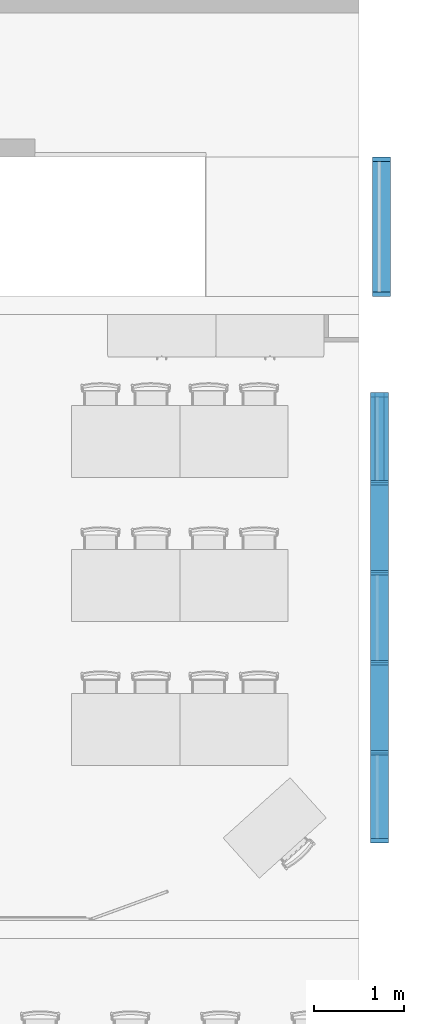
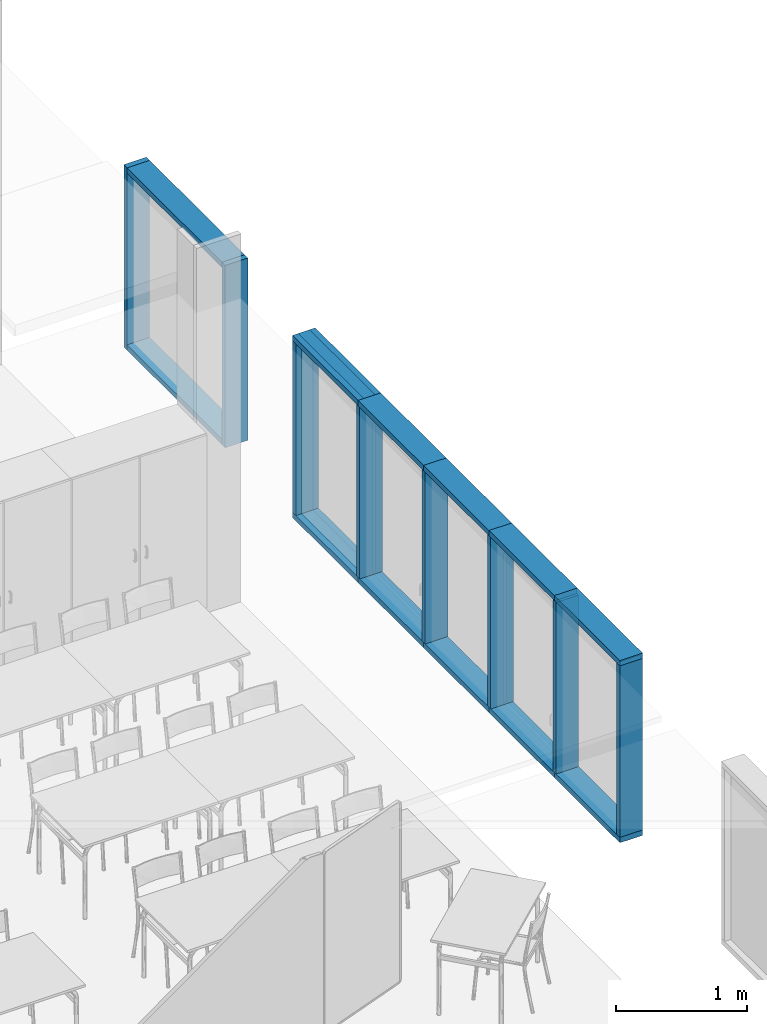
# One storey, part 10 of 44: 51 members, 4 elements without a shape of their own.
"""IFC2X3 building model written with IfcOpenShell, lengths in centimetres."""

import ifcopenshell
import ifcopenshell.guid

model = None  # the IFC model being written
_history = None  # IfcOwnerHistory: only IFC2X3 demands one
_inside = {}  # id of a spatial element -> (the spatial element, [elements in it])
_under = {}  # id of a project, library or spatial element -> (it, [spatial elements below it])
_declared = {}  # id of a project -> (the project, [libraries it declares])
_typed = {}  # id of a type object -> (the type object, [elements of that type])
_made_of = {}  # id of a material, layer set ... -> (it, [elements and type objects made of it])


def new_model(schema):
    """Start an empty IFC model of exactly this schema.

    Asked for "IFC4X3", IfcOpenShell would pick the latest addendum, in which some entities
    have other attributes; the version numbers below select the first issue.
    IFC2X3 requires an IfcOwnerHistory on every rooted entity: one is made here for all.
    """
    global model, _history
    if schema == "IFC4X3":
        model = ifcopenshell.file(schema_version=(4, 3, 0, 0))
    else:
        model = ifcopenshell.file(schema=schema)
    _inside.clear()
    _under.clear()
    _declared.clear()
    _typed.clear()
    _made_of.clear()
    _history = None
    if model.schema == "IFC2X3":
        org = make("IfcOrganization", Name="unknown")
        user = make(
            "IfcPersonAndOrganization",
            ThePerson=make("IfcPerson", FamilyName="unknown"),
            TheOrganization=org,
        )
        app = make(
            "IfcApplication",
            ApplicationDeveloper=org,
            Version="unknown",
            ApplicationFullName="unknown",
            ApplicationIdentifier="unknown",
        )
        _history = make(
            "IfcOwnerHistory",
            OwningUser=user,
            OwningApplication=app,
            ChangeAction="ADDED",
            CreationDate=0,
        )
    return model


def make(cls, **values):
    """One entity of the class cls with the attributes given. An attribute that is None is left unset."""
    return model.create_entity(
        cls, **{name: value for name, value in values.items() if value is not None}
    )


def entity(cls, *values):
    """Any entity or typed value of the class cls, its attributes in the order of the schema. None: left unset."""
    e = model.create_entity(cls)
    for i, value in enumerate(values):
        if value is not None:
            e[i] = value
    return e


def rooted(cls, **values):
    """An entity with a GlobalId (a new one), such as an element, a storey or a relation."""
    return make(cls, GlobalId=ifcopenshell.guid.new(), OwnerHistory=_history, **values)


def si_unit(unit_type, name, prefix=None):
    """IfcSIUnit, for example si_unit("LENGTHUNIT", "METRE", prefix="MILLI")."""
    return make("IfcSIUnit", UnitType=unit_type, Prefix=prefix, Name=name)


def converted_unit(unit_type, name, factor, base, dimensions=None, offset=None):
    """IfcConversionBasedUnit, such as the inch: factor (a typed value) times the base unit."""
    return make(
        "IfcConversionBasedUnit"
        if offset is None
        else "IfcConversionBasedUnitWithOffset",
        ConversionOffset=offset,
        Dimensions=None
        if dimensions is None
        else entity("IfcDimensionalExponents", *dimensions),
        UnitType=unit_type,
        Name=name,
        ConversionFactor=make(
            "IfcMeasureWithUnit", ValueComponent=factor, UnitComponent=base
        ),
    )


def derived_unit(unit_type, elements):
    """IfcDerivedUnit: a product of units, each with its exponent."""
    return make(
        "IfcDerivedUnit",
        Elements=[
            make("IfcDerivedUnitElement", Unit=unit, Exponent=power)
            for unit, power in elements
        ],
        UnitType=unit_type,
    )


def assignment(units):
    """IfcUnitAssignment: the units of a project."""
    return None if units is None else make("IfcUnitAssignment", Units=units)


def point(xyz):
    """IfcCartesianPoint."""
    return None if xyz is None else make("IfcCartesianPoint", Coordinates=xyz)


def direction(xyz):
    """IfcDirection."""
    return None if xyz is None else make("IfcDirection", DirectionRatios=xyz)


def frame(location, z_axis=None, x_axis=None):
    """IfcAxis2Placement3D, a coordinate frame: its origin and axes. An axis left out is left unset."""
    return make(
        "IfcAxis2Placement3D",
        Location=point(location),
        Axis=direction(z_axis),
        RefDirection=direction(x_axis),
    )


def frame_2d(location, x_axis=None):
    """IfcAxis2Placement2D, a coordinate frame in the plane: its origin and x axis."""
    return make(
        "IfcAxis2Placement2D", Location=point(location), RefDirection=direction(x_axis)
    )


def origin():
    """The frame at (0, 0, 0) with its axes left unset."""
    return frame((0.0, 0.0, 0.0))


def origin_2d_with_axis():
    """The frame at (0, 0) in the plane with the x axis (1, 0) written out."""
    return frame_2d((0.0, 0.0), x_axis=(1.0, 0.0))


def place(relative_to, where):
    """IfcLocalPlacement: puts the frame where relative to a parent placement (None: the world)."""
    return make(
        "IfcLocalPlacement", PlacementRelTo=relative_to, RelativePlacement=where
    )


def context(
    kind, dimensions, precision=None, world=None, true_north=None, identifier=None
):
    """IfcGeometricRepresentationContext, for example the 3D "Model" context."""
    return make(
        "IfcGeometricRepresentationContext",
        ContextIdentifier=identifier,
        ContextType=kind,
        CoordinateSpaceDimension=dimensions,
        Precision=precision,
        WorldCoordinateSystem=world,
        TrueNorth=true_north,
    )


def subcontext(parent, identifier, kind, view, scale=None):
    """IfcGeometricRepresentationSubContext, for example "Body" below "Model"."""
    return make(
        "IfcGeometricRepresentationSubContext",
        ContextIdentifier=identifier,
        ContextType=kind,
        ParentContext=parent,
        TargetScale=scale,
        TargetView=view,
    )


def project(units=None, contexts=None):
    """IfcProject with its units and contexts."""
    return rooted(
        "IfcProject",
        Name="project",
        RepresentationContexts=contexts,
        UnitsInContext=assignment(units),
    )


def spatial(cls, under=None, at=None, **own):
    """A site, building, storey or space (cls), placed at a placement, below another one or the project."""
    s = rooted(cls, ObjectPlacement=at, **own)
    if under is not None:
        _under.setdefault(under.id(), (under, []))[1].append(s)
    return s


def profile(cls, at=None, kind="AREA", **sizes):
    """A parametric profile (cls). Its sizes go by their IFC names, for example OverallWidth=200.0."""
    return make(cls, ProfileType=kind, Position=at, **sizes)


def rectangle(**sizes):
    """IfcRectangleProfileDef."""
    return profile("IfcRectangleProfileDef", **sizes)


def extrude(swept, where, along, depth):
    """IfcExtrudedAreaSolid: the profile swept, set in the frame where, extruded along a direction by depth."""
    return make(
        "IfcExtrudedAreaSolid",
        SweptArea=swept,
        Position=where,
        ExtrudedDirection=direction(along),
        Depth=depth,
    )


def shape(context_of_items, identifier, shape_type, items):
    """IfcShapeRepresentation: the items that make up one representation, for example the "Body"."""
    return make(
        "IfcShapeRepresentation",
        ContextOfItems=context_of_items,
        RepresentationIdentifier=identifier,
        RepresentationType=shape_type,
        Items=items,
    )


def material(Name=None, Category=None):
    """IfcMaterial."""
    return make("IfcMaterial", Name=Name, Category=Category)


def made_of(thing, what):
    """Note that an element or type object is made of a material, layer set ...; save() writes the relation."""
    if what is not None:
        _made_of.setdefault(what.id(), (what, []))[1].append(thing)
    return thing


def type_object(cls, material=None, **own):
    """A type object (cls), such as IfcWallType, which elements share."""
    return made_of(rooted(cls, **own), material)


def element(
    cls,
    number,
    at=None,
    inside=None,
    cuts=None,
    type_object=None,
    material=None,
    context=None,
    identifier="Body",
    shape_type=None,
    held_by="IfcProductDefinitionShape",
    body=None,
    shapes=None,
    **own,
):
    """One element of the class cls, such as IfcWall. Its Tag is "e" and its number.

    at: its placement. inside: the storey or other place that contains it. cuts: it is an
    opening in that element (IfcRelVoidsElement). A single representation is given by context,
    identifier, shape_type and body (its items); several are given by shapes. held_by: the class
    of the entity that holds the representations. save() writes the other relations.
    """
    e = rooted(cls, Tag="e%d" % number, ObjectPlacement=at, **own)
    if body is not None:
        shapes = [shape(context, identifier, shape_type, body)]
    if shapes is not None:
        e.Representation = make(held_by, Representations=shapes)
    if inside is not None:
        _inside.setdefault(inside.id(), (inside, []))[1].append(e)
    if cuts is not None:
        rooted(
            "IfcRelVoidsElement", RelatingBuildingElement=cuts, RelatedOpeningElement=e
        )
    if type_object is not None:
        _typed.setdefault(type_object.id(), (type_object, []))[1].append(e)
    return made_of(e, material)


def aggregate(whole, parts):
    """IfcRelAggregates: a whole, such as a stair, and the parts it consists of."""
    return rooted("IfcRelAggregates", RelatingObject=whole, RelatedObjects=parts)


def save(model, path):
    """Write the relations noted so far, then the file.

    IfcRelAggregates (storeys below a building ...), IfcRelContainedInSpatialStructure (elements
    in a storey), IfcRelDefinesByType, IfcRelAssociatesMaterial and IfcRelDeclares: one each for
    every whole, place, type object, material and project.
    """
    for whole, parts in _under.values():
        aggregate(whole, parts)
    for where, things in _inside.values():
        rooted(
            "IfcRelContainedInSpatialStructure",
            RelatedElements=things,
            RelatingStructure=where,
        )
    for kind, things in _typed.values():
        rooted("IfcRelDefinesByType", RelatedObjects=things, RelatingType=kind)
    for what, things in _made_of.values():
        rooted("IfcRelAssociatesMaterial", RelatedObjects=things, RelatingMaterial=what)
    for by, libraries in _declared.values():
        rooted("IfcRelDeclares", RelatingContext=by, RelatedDefinitions=libraries)
    model.write(path)


model = new_model("IFC2X3")

# Units and contexts
model_context = context("Model", 3, precision=0.001, world=origin(), true_north=direction((6.12303176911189e-17, 1.0)))
body_context = subcontext(model_context, "Body", "Model", "MODEL_VIEW")
ifc_project = project(units=[si_unit("LENGTHUNIT", "METRE", prefix="CENTI"), si_unit("AREAUNIT", "SQUARE_METRE"), si_unit("VOLUMEUNIT", "CUBIC_METRE"), converted_unit("PLANEANGLEUNIT", "DEGREE", entity("IfcRatioMeasure", 0.0174532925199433), si_unit("PLANEANGLEUNIT", "RADIAN"), dimensions=[0, 0, 0, 0, 0, 0, 0]), si_unit("MASSUNIT", "GRAM", prefix="KILO"), si_unit("TIMEUNIT", "SECOND"), si_unit("FREQUENCYUNIT", "HERTZ"), si_unit("THERMODYNAMICTEMPERATUREUNIT", "DEGREE_CELSIUS"), derived_unit("THERMALTRANSMITTANCEUNIT", [(si_unit("MASSUNIT", "GRAM", prefix="KILO"), 1), (si_unit("THERMODYNAMICTEMPERATUREUNIT", "KELVIN"), -1), (si_unit("TIMEUNIT", "SECOND"), -3)]), derived_unit("VOLUMETRICFLOWRATEUNIT", [(si_unit("LENGTHUNIT", "METRE"), 3), (si_unit("TIMEUNIT", "SECOND"), -1)]), si_unit("ELECTRICCURRENTUNIT", "AMPERE"), si_unit("ELECTRICVOLTAGEUNIT", "VOLT"), si_unit("POWERUNIT", "WATT"), si_unit("FORCEUNIT", "NEWTON", prefix="KILO"), si_unit("ILLUMINANCEUNIT", "LUX"), si_unit("LUMINOUSFLUXUNIT", "LUMEN"), si_unit("LUMINOUSINTENSITYUNIT", "CANDELA"), derived_unit("USERDEFINED", [(si_unit("MASSUNIT", "GRAM", prefix="KILO"), -1), (si_unit("LENGTHUNIT", "METRE"), -2), (si_unit("TIMEUNIT", "SECOND"), 3), (si_unit("LUMINOUSFLUXUNIT", "LUMEN"), 1)]), derived_unit("LINEARVELOCITYUNIT", [(si_unit("LENGTHUNIT", "METRE"), 1), (si_unit("TIMEUNIT", "SECOND"), -1)]), si_unit("PRESSUREUNIT", "PASCAL"), derived_unit("USERDEFINED", [(si_unit("LENGTHUNIT", "METRE"), -2), (si_unit("MASSUNIT", "GRAM", prefix="KILO"), 1), (si_unit("TIMEUNIT", "SECOND"), -2)])], contexts=[model_context])

# Site, building, storey
site_placement = place(None, frame((8.62739174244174, -249.285249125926, 0.0)))
site = spatial("IfcSite", under=ifc_project, at=site_placement, Name="Default", CompositionType="ELEMENT")
building_placement = place(site_placement, origin())
building = spatial("IfcBuilding", under=site, at=building_placement, CompositionType="ELEMENT")
storey_placement = place(building_placement, frame((0.0, 0.0, 343.0)))
storey = spatial("IfcBuildingStorey", under=building, at=storey_placement, Name="R+1", CompositionType="ELEMENT", Elevation=343.0)

# Curtain wall, members
curtain_wall_type = type_object("IfcCurtainWallType", Name="Mur-rideau:Simple panneau", PredefinedType="NOTDEFINED")
curtain_wall_1_placement = place(storey_placement, frame((0.0, 0.0, -343.0)))
curtain_wall_1 = element("IfcCurtainWall", 1, at=curtain_wall_1_placement, inside=storey, type_object=curtain_wall_type, Name="Mur-rideau:Simple panneau", ObjectType="Mur-rideau:Simple panneau")
ifc_material = material(Name="Plastique, blanc opaque")
member_1_placement = place(curtain_wall_1_placement, frame((0.0, 0.0, 343.0)))
member_1 = element("IfcMember", 2, at=member_1_placement, material=ifc_material, Name="Mur-rideau:Simple panneau", ObjectType="Mur-rideau:Simple panneau", context=body_context, shape_type="SweptSolid", body=[
    extrude(rectangle(XDim=9.99999999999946, YDim=4.99999999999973, at=frame_2d((0.0, -4.33209024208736e-13), x_axis=(1.0, 0.0))), frame((4001.90482776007, 4594.08270074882, 273.0), z_axis=(0.0, 0.0, -1.0), x_axis=(-1.0, 0.0, 0.0)), (0.0, 0.0, 1.0), 160.0),
])
member_2_placement = place(curtain_wall_1_placement, frame((0.0, 0.0, 343.0)))
member_2 = element("IfcMember", 3, at=member_2_placement, material=ifc_material, Name="Mur-rideau:Simple panneau", ObjectType="Mur-rideau:Simple panneau", context=body_context, shape_type="SweptSolid", body=[
    extrude(rectangle(XDim=20.0000000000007, YDim=4.99999999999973, at=frame_2d((0.0, 4.33209024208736e-13), x_axis=(1.0, 0.0))), frame((4001.90482776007, 4099.08270074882, 113.0), z_axis=(0.0, 0.0, 1.0), x_axis=(-1.0, 0.0, 0.0)), (0.0, 0.0, 1.0), 160.0),
])
member_3_placement = place(curtain_wall_1_placement, frame((0.0, 0.0, 343.0)))
member_3 = element("IfcMember", 4, at=member_3_placement, material=ifc_material, Name="Mur-rideau:Simple panneau", ObjectType="Mur-rideau:Simple panneau", context=body_context, shape_type="SweptSolid", body=[
    extrude(rectangle(XDim=5.0, YDim=9.99999999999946, at=frame_2d((-2.70894418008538e-14, 0.0), x_axis=(1.0, 0.0))), frame((4001.90482776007, 4596.58270074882, 110.499999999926), z_axis=(0.0, -1.0, 0.0), x_axis=(0.0, 0.0, -1.0)), (0.0, 0.0, 1.0), 99.9999999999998),
])
member_4_placement = place(curtain_wall_1_placement, frame((0.0, 0.0, 343.0)))
member_4 = element("IfcMember", 5, at=member_4_placement, material=ifc_material, Name="Mur-rideau:Simple panneau", ObjectType="Mur-rideau:Simple panneau", context=body_context, shape_type="SweptSolid", body=[
    extrude(rectangle(XDim=20.0000000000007, YDim=5.0000000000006, at=origin_2d_with_axis()), frame((4001.90482776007, 4196.58270074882, 113.0), z_axis=(0.0, 0.0, 1.0), x_axis=(-1.0, 0.0, 0.0)), (0.0, 0.0, 1.0), 160.0),
])
member_5_placement = place(curtain_wall_1_placement, frame((0.0, 0.0, 343.0)))
member_5 = element("IfcMember", 6, at=member_5_placement, material=ifc_material, Name="Mur-rideau:Simple panneau", ObjectType="Mur-rideau:Simple panneau", context=body_context, shape_type="SweptSolid", body=[
    extrude(rectangle(XDim=20.0000000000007, YDim=5.0000000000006, at=origin_2d_with_axis()), frame((4001.90482776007, 4296.58270074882, 113.0), z_axis=(0.0, 0.0, 1.0), x_axis=(-1.0, 0.0, 0.0)), (0.0, 0.0, 1.0), 160.0),
])
member_6_placement = place(curtain_wall_1_placement, frame((0.0, 0.0, 343.0)))
member_6 = element("IfcMember", 7, at=member_6_placement, material=ifc_material, Name="Mur-rideau:Simple panneau", ObjectType="Mur-rideau:Simple panneau", context=body_context, shape_type="SweptSolid", body=[
    extrude(rectangle(XDim=20.0000000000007, YDim=5.0000000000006, at=origin_2d_with_axis()), frame((4001.90482776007, 4396.58270074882, 113.0), z_axis=(0.0, 0.0, 1.0), x_axis=(-1.0, 0.0, 0.0)), (0.0, 0.0, 1.0), 160.0),
])
member_7_placement = place(curtain_wall_1_placement, frame((0.0, 0.0, 343.0)))
member_7 = element("IfcMember", 8, at=member_7_placement, material=ifc_material, Name="Mur-rideau:Simple panneau", ObjectType="Mur-rideau:Simple panneau", context=body_context, shape_type="SweptSolid", body=[
    extrude(rectangle(XDim=20.0000000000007, YDim=5.0000000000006, at=origin_2d_with_axis()), frame((4001.90482776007, 4496.58270074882, 113.0), z_axis=(0.0, 0.0, 1.0), x_axis=(-1.0, 0.0, 0.0)), (0.0, 0.0, 1.0), 160.0),
])
member_8_placement = place(curtain_wall_1_placement, frame((0.0, 0.0, 343.0)))
member_8 = element("IfcMember", 9, at=member_8_placement, material=ifc_material, Name="Mur-rideau:Simple panneau", ObjectType="Mur-rideau:Simple panneau", context=body_context, shape_type="SweptSolid", body=[
    extrude(rectangle(XDim=5.0, YDim=20.0000000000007, at=frame_2d((-2.70894418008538e-14, 0.0), x_axis=(1.0, 0.0))), frame((4001.90482776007, 4196.58270074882, 110.499999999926), z_axis=(0.0, -1.0, 0.0), x_axis=(0.0, 0.0, -1.0)), (0.0, 0.0, 1.0), 100.000000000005),
])
member_9_placement = place(curtain_wall_1_placement, frame((0.0, 0.0, 343.0)))
member_9 = element("IfcMember", 10, at=member_9_placement, material=ifc_material, Name="Mur-rideau:Simple panneau", ObjectType="Mur-rideau:Simple panneau", context=body_context, shape_type="SweptSolid", body=[
    extrude(rectangle(XDim=5.0, YDim=20.0000000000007, at=frame_2d((-2.70894418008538e-14, 0.0), x_axis=(1.0, 0.0))), frame((4001.90482776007, 4296.58270074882, 110.499999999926), z_axis=(0.0, -1.0, 0.0), x_axis=(0.0, 0.0, -1.0)), (0.0, 0.0, 1.0), 99.9999999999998),
])
member_10_placement = place(curtain_wall_1_placement, frame((0.0, 0.0, 343.0)))
member_10 = element("IfcMember", 11, at=member_10_placement, material=ifc_material, Name="Mur-rideau:Simple panneau", ObjectType="Mur-rideau:Simple panneau", context=body_context, shape_type="SweptSolid", body=[
    extrude(rectangle(XDim=5.0, YDim=20.0000000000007, at=frame_2d((-2.70894418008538e-14, 0.0), x_axis=(1.0, 0.0))), frame((4001.90482776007, 4396.58270074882, 110.499999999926), z_axis=(0.0, -1.0, 0.0), x_axis=(0.0, 0.0, -1.0)), (0.0, 0.0, 1.0), 100.0),
])
member_11_placement = place(curtain_wall_1_placement, frame((0.0, 0.0, 343.0)))
member_11 = element("IfcMember", 12, at=member_11_placement, material=ifc_material, Name="Mur-rideau:Simple panneau", ObjectType="Mur-rideau:Simple panneau", context=body_context, shape_type="SweptSolid", body=[
    extrude(rectangle(XDim=5.0, YDim=20.0000000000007, at=frame_2d((-2.70894418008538e-14, 0.0), x_axis=(1.0, 0.0))), frame((4001.90482776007, 4496.58270074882, 110.499999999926), z_axis=(0.0, -1.0, 0.0), x_axis=(0.0, 0.0, -1.0)), (0.0, 0.0, 1.0), 99.9999999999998),
])
member_12_placement = place(curtain_wall_1_placement, frame((0.0, 0.0, 343.0)))
member_12 = element("IfcMember", 13, at=member_12_placement, material=ifc_material, Name="Mur-rideau:Simple panneau", ObjectType="Mur-rideau:Simple panneau", context=body_context, shape_type="SweptSolid", body=[
    extrude(rectangle(XDim=4.99999999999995, YDim=20.0000000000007, at=origin_2d_with_axis()), frame((4001.90482776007, 4196.58270074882, 275.499999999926), z_axis=(0.0, 1.0, 0.0), x_axis=(0.0, 0.0, -1.0)), (0.0, 0.0, 1.0), 99.9999999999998),
])
member_13_placement = place(curtain_wall_1_placement, frame((0.0, 0.0, 343.0)))
member_13 = element("IfcMember", 14, at=member_13_placement, material=ifc_material, Name="Mur-rideau:Simple panneau", ObjectType="Mur-rideau:Simple panneau", context=body_context, shape_type="SweptSolid", body=[
    extrude(rectangle(XDim=4.99999999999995, YDim=20.0000000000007, at=origin_2d_with_axis()), frame((4001.90482776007, 4296.58270074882, 275.499999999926), z_axis=(0.0, 1.0, 0.0), x_axis=(0.0, 0.0, -1.0)), (0.0, 0.0, 1.0), 100.0),
])
member_14_placement = place(curtain_wall_1_placement, frame((0.0, 0.0, 343.0)))
member_14 = element("IfcMember", 15, at=member_14_placement, material=ifc_material, Name="Mur-rideau:Simple panneau", ObjectType="Mur-rideau:Simple panneau", context=body_context, shape_type="SweptSolid", body=[
    extrude(rectangle(XDim=4.99999999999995, YDim=20.0000000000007, at=origin_2d_with_axis()), frame((4001.90482776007, 4396.58270074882, 275.499999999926), z_axis=(0.0, 1.0, 0.0), x_axis=(0.0, 0.0, -1.0)), (0.0, 0.0, 1.0), 99.9999999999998),
])
member_15_placement = place(curtain_wall_1_placement, frame((0.0, 0.0, 343.0)))
member_15 = element("IfcMember", 16, at=member_15_placement, material=ifc_material, Name="Mur-rideau:Simple panneau", ObjectType="Mur-rideau:Simple panneau", context=body_context, shape_type="SweptSolid", body=[
    extrude(rectangle(XDim=4.99999999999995, YDim=9.99999999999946, at=origin_2d_with_axis()), frame((4001.90482776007, 4496.58270074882, 275.499999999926), z_axis=(0.0, 1.0, 0.0), x_axis=(0.0, 0.0, -1.0)), (0.0, 0.0, 1.0), 99.9999999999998),
])
aggregate(curtain_wall_1, [member_1, member_2, member_3, member_4, member_5, member_6, member_7, member_8, member_9, member_10, member_11, member_12, member_13, member_14, member_15])

curtain_wall_2_placement = place(storey_placement, frame((0.0, 0.0, -343.0)))
curtain_wall_2 = element("IfcCurtainWall", 17, at=curtain_wall_2_placement, inside=storey, type_object=curtain_wall_type, Name="Mur-rideau:Simple panneau", ObjectType="Mur-rideau:Simple panneau")
member_16_placement = place(curtain_wall_2_placement, frame((0.0, 0.0, 343.0)))
member_16 = element("IfcMember", 18, at=member_16_placement, material=ifc_material, Name="Mur-rideau:Simple panneau", ObjectType="Mur-rideau:Simple panneau", context=body_context, shape_type="SweptSolid", body=[
    extrude(rectangle(XDim=20.0000000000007, YDim=4.99999999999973, at=frame_2d((0.0, -4.33209024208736e-13), x_axis=(1.0, 0.0))), frame((4003.90482781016, 4855.48020813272, 278.0), z_axis=(0.0, 0.0, -1.0), x_axis=(-1.0, 0.0, 0.0)), (0.0, 0.0, 1.0), 170.0),
])
member_17_placement = place(curtain_wall_2_placement, frame((0.0, 0.0, 343.0)))
member_17 = element("IfcMember", 19, at=member_17_placement, material=ifc_material, Name="Mur-rideau:Simple panneau", ObjectType="Mur-rideau:Simple panneau", context=body_context, shape_type="SweptSolid", body=[
    extrude(rectangle(XDim=5.00000000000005, YDim=20.0000000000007, at=frame_2d((-5.41788836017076e-14, 0.0), x_axis=(1.0, 0.0))), frame((4003.90482781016, 4707.98020813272, 275.49999999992), z_axis=(0.0, 1.0, 0.0), x_axis=(0.0, 0.0, -1.0)), (0.0, 0.0, 1.0), 145.000000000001),
])
member_18_placement = place(curtain_wall_2_placement, frame((0.0, 0.0, 343.0)))
member_18 = element("IfcMember", 20, at=member_18_placement, material=ifc_material, Name="Mur-rideau:Simple panneau", ObjectType="Mur-rideau:Simple panneau", context=body_context, shape_type="SweptSolid", body=[
    extrude(rectangle(XDim=20.0000000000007, YDim=4.99999999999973, at=frame_2d((0.0, -4.33209024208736e-13), x_axis=(1.0, 0.0))), frame((4003.90482781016, 4705.48020813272, 108.0), z_axis=(0.0, 0.0, 1.0), x_axis=(-1.0, 0.0, 0.0)), (0.0, 0.0, 1.0), 170.0),
])
member_19_placement = place(curtain_wall_2_placement, frame((0.0, 0.0, 343.0)))
member_19 = element("IfcMember", 21, at=member_19_placement, material=ifc_material, Name="Mur-rideau:Simple panneau", ObjectType="Mur-rideau:Simple panneau", context=body_context, shape_type="SweptSolid", body=[
    extrude(rectangle(XDim=5.0, YDim=20.0000000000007, at=frame_2d((2.70894418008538e-14, 0.0), x_axis=(1.0, 0.0))), frame((4003.90482781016, 4852.98020813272, 110.5), z_axis=(0.0, -1.0, 0.0), x_axis=(0.0, 0.0, -1.0)), (0.0, 0.0, 1.0), 145.000000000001),
])
aggregate(curtain_wall_2, [member_16, member_17, member_18, member_19])

curtain_wall_3_placement = place(storey_placement, frame((0.0, 0.0, -343.0)))
curtain_wall_3 = element("IfcCurtainWall", 22, at=curtain_wall_3_placement, inside=storey, type_object=curtain_wall_type, Name="Mur-rideau:Simple panneau", ObjectType="Mur-rideau:Simple panneau")
member_20_placement = place(curtain_wall_3_placement, frame((0.0, 0.0, 343.0)))
member_20 = element("IfcMember", 23, at=member_20_placement, material=ifc_material, Name="Mur-rideau:Simple panneau", ObjectType="Mur-rideau:Simple panneau", context=body_context, shape_type="SweptSolid", body=[
    extrude(rectangle(XDim=20.0000000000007, YDim=4.99999999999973, at=frame_2d((0.0, -4.33209024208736e-13), x_axis=(1.0, 0.0))), frame((4001.90482776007, 4594.08270074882, 273.0), z_axis=(0.0, 0.0, -1.0), x_axis=(-1.0, 0.0, 0.0)), (0.0, 0.0, 1.0), 160.0),
])
member_21_placement = place(curtain_wall_3_placement, frame((0.0, 0.0, 343.0)))
member_21 = element("IfcMember", 24, at=member_21_placement, material=ifc_material, Name="Mur-rideau:Simple panneau", ObjectType="Mur-rideau:Simple panneau", context=body_context, shape_type="SweptSolid", body=[
    extrude(rectangle(XDim=4.99999999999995, YDim=20.0000000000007, at=origin_2d_with_axis()), frame((4001.90482776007, 4096.58270074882, 275.499999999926), z_axis=(0.0, 1.0, 0.0), x_axis=(0.0, 0.0, -1.0)), (0.0, 0.0, 1.0), 100.000000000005),
])
member_22_placement = place(curtain_wall_3_placement, frame((0.0, 0.0, 343.0)))
member_22 = element("IfcMember", 25, at=member_22_placement, material=ifc_material, Name="Mur-rideau:Simple panneau", ObjectType="Mur-rideau:Simple panneau", context=body_context, shape_type="SweptSolid", body=[
    extrude(rectangle(XDim=20.0000000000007, YDim=4.99999999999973, at=frame_2d((0.0, 4.33209024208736e-13), x_axis=(1.0, 0.0))), frame((4001.90482776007, 4099.08270074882, 113.0), z_axis=(0.0, 0.0, 1.0), x_axis=(-1.0, 0.0, 0.0)), (0.0, 0.0, 1.0), 160.0),
])
member_23_placement = place(curtain_wall_3_placement, frame((0.0, 0.0, 343.0)))
member_23 = element("IfcMember", 26, at=member_23_placement, material=ifc_material, Name="Mur-rideau:Simple panneau", ObjectType="Mur-rideau:Simple panneau", context=body_context, shape_type="SweptSolid", body=[
    extrude(rectangle(XDim=5.0, YDim=20.0000000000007, at=frame_2d((-2.70894418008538e-14, 0.0), x_axis=(1.0, 0.0))), frame((4001.90482776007, 4596.58270074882, 110.499999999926), z_axis=(0.0, -1.0, 0.0), x_axis=(0.0, 0.0, -1.0)), (0.0, 0.0, 1.0), 99.9999999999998),
])
member_24_placement = place(curtain_wall_3_placement, frame((0.0, 0.0, 343.0)))
member_24 = element("IfcMember", 27, at=member_24_placement, material=ifc_material, Name="Mur-rideau:Simple panneau", ObjectType="Mur-rideau:Simple panneau", context=body_context, shape_type="SweptSolid", body=[
    extrude(rectangle(XDim=20.0000000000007, YDim=5.0000000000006, at=origin_2d_with_axis()), frame((4001.90482776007, 4196.58270074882, 113.0), z_axis=(0.0, 0.0, 1.0), x_axis=(-1.0, 0.0, 0.0)), (0.0, 0.0, 1.0), 160.0),
])
member_25_placement = place(curtain_wall_3_placement, frame((0.0, 0.0, 343.0)))
member_25 = element("IfcMember", 28, at=member_25_placement, material=ifc_material, Name="Mur-rideau:Simple panneau", ObjectType="Mur-rideau:Simple panneau", context=body_context, shape_type="SweptSolid", body=[
    extrude(rectangle(XDim=20.0000000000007, YDim=5.0000000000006, at=origin_2d_with_axis()), frame((4001.90482776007, 4296.58270074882, 113.0), z_axis=(0.0, 0.0, 1.0), x_axis=(-1.0, 0.0, 0.0)), (0.0, 0.0, 1.0), 160.0),
])
member_26_placement = place(curtain_wall_3_placement, frame((0.0, 0.0, 343.0)))
member_26 = element("IfcMember", 29, at=member_26_placement, material=ifc_material, Name="Mur-rideau:Simple panneau", ObjectType="Mur-rideau:Simple panneau", context=body_context, shape_type="SweptSolid", body=[
    extrude(rectangle(XDim=20.0000000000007, YDim=5.0000000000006, at=origin_2d_with_axis()), frame((4001.90482776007, 4396.58270074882, 113.0), z_axis=(0.0, 0.0, 1.0), x_axis=(-1.0, 0.0, 0.0)), (0.0, 0.0, 1.0), 160.0),
])
member_27_placement = place(curtain_wall_3_placement, frame((0.0, 0.0, 343.0)))
member_27 = element("IfcMember", 30, at=member_27_placement, material=ifc_material, Name="Mur-rideau:Simple panneau", ObjectType="Mur-rideau:Simple panneau", context=body_context, shape_type="SweptSolid", body=[
    extrude(rectangle(XDim=20.0000000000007, YDim=5.0000000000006, at=origin_2d_with_axis()), frame((4001.90482776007, 4496.58270074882, 113.0), z_axis=(0.0, 0.0, 1.0), x_axis=(-1.0, 0.0, 0.0)), (0.0, 0.0, 1.0), 160.0),
])
member_28_placement = place(curtain_wall_3_placement, frame((0.0, 0.0, 343.0)))
member_28 = element("IfcMember", 31, at=member_28_placement, material=ifc_material, Name="Mur-rideau:Simple panneau", ObjectType="Mur-rideau:Simple panneau", context=body_context, shape_type="SweptSolid", body=[
    extrude(rectangle(XDim=5.0, YDim=20.0000000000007, at=frame_2d((-2.70894418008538e-14, 0.0), x_axis=(1.0, 0.0))), frame((4001.90482776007, 4196.58270074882, 110.499999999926), z_axis=(0.0, -1.0, 0.0), x_axis=(0.0, 0.0, -1.0)), (0.0, 0.0, 1.0), 100.000000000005),
])
member_29_placement = place(curtain_wall_3_placement, frame((0.0, 0.0, 343.0)))
member_29 = element("IfcMember", 32, at=member_29_placement, material=ifc_material, Name="Mur-rideau:Simple panneau", ObjectType="Mur-rideau:Simple panneau", context=body_context, shape_type="SweptSolid", body=[
    extrude(rectangle(XDim=5.0, YDim=20.0000000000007, at=frame_2d((-2.70894418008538e-14, 0.0), x_axis=(1.0, 0.0))), frame((4001.90482776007, 4296.58270074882, 110.499999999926), z_axis=(0.0, -1.0, 0.0), x_axis=(0.0, 0.0, -1.0)), (0.0, 0.0, 1.0), 99.9999999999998),
])
member_30_placement = place(curtain_wall_3_placement, frame((0.0, 0.0, 343.0)))
member_30 = element("IfcMember", 33, at=member_30_placement, material=ifc_material, Name="Mur-rideau:Simple panneau", ObjectType="Mur-rideau:Simple panneau", context=body_context, shape_type="SweptSolid", body=[
    extrude(rectangle(XDim=5.0, YDim=20.0000000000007, at=frame_2d((-2.70894418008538e-14, 0.0), x_axis=(1.0, 0.0))), frame((4001.90482776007, 4396.58270074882, 110.499999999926), z_axis=(0.0, -1.0, 0.0), x_axis=(0.0, 0.0, -1.0)), (0.0, 0.0, 1.0), 100.0),
])
member_31_placement = place(curtain_wall_3_placement, frame((0.0, 0.0, 343.0)))
member_31 = element("IfcMember", 34, at=member_31_placement, material=ifc_material, Name="Mur-rideau:Simple panneau", ObjectType="Mur-rideau:Simple panneau", context=body_context, shape_type="SweptSolid", body=[
    extrude(rectangle(XDim=5.0, YDim=20.0000000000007, at=frame_2d((-2.70894418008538e-14, 0.0), x_axis=(1.0, 0.0))), frame((4001.90482776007, 4496.58270074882, 110.499999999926), z_axis=(0.0, -1.0, 0.0), x_axis=(0.0, 0.0, -1.0)), (0.0, 0.0, 1.0), 99.9999999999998),
])
member_32_placement = place(curtain_wall_3_placement, frame((0.0, 0.0, 343.0)))
member_32 = element("IfcMember", 35, at=member_32_placement, material=ifc_material, Name="Mur-rideau:Simple panneau", ObjectType="Mur-rideau:Simple panneau", context=body_context, shape_type="SweptSolid", body=[
    extrude(rectangle(XDim=4.99999999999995, YDim=20.0000000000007, at=origin_2d_with_axis()), frame((4001.90482776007, 4196.58270074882, 275.499999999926), z_axis=(0.0, 1.0, 0.0), x_axis=(0.0, 0.0, -1.0)), (0.0, 0.0, 1.0), 99.9999999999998),
])
member_33_placement = place(curtain_wall_3_placement, frame((0.0, 0.0, 343.0)))
member_33 = element("IfcMember", 36, at=member_33_placement, material=ifc_material, Name="Mur-rideau:Simple panneau", ObjectType="Mur-rideau:Simple panneau", context=body_context, shape_type="SweptSolid", body=[
    extrude(rectangle(XDim=4.99999999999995, YDim=20.0000000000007, at=origin_2d_with_axis()), frame((4001.90482776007, 4296.58270074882, 275.499999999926), z_axis=(0.0, 1.0, 0.0), x_axis=(0.0, 0.0, -1.0)), (0.0, 0.0, 1.0), 100.0),
])
member_34_placement = place(curtain_wall_3_placement, frame((0.0, 0.0, 343.0)))
member_34 = element("IfcMember", 37, at=member_34_placement, material=ifc_material, Name="Mur-rideau:Simple panneau", ObjectType="Mur-rideau:Simple panneau", context=body_context, shape_type="SweptSolid", body=[
    extrude(rectangle(XDim=4.99999999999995, YDim=20.0000000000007, at=origin_2d_with_axis()), frame((4001.90482776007, 4396.58270074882, 275.499999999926), z_axis=(0.0, 1.0, 0.0), x_axis=(0.0, 0.0, -1.0)), (0.0, 0.0, 1.0), 99.9999999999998),
])
member_35_placement = place(curtain_wall_3_placement, frame((0.0, 0.0, 343.0)))
member_35 = element("IfcMember", 38, at=member_35_placement, material=ifc_material, Name="Mur-rideau:Simple panneau", ObjectType="Mur-rideau:Simple panneau", context=body_context, shape_type="SweptSolid", body=[
    extrude(rectangle(XDim=4.99999999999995, YDim=20.0000000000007, at=origin_2d_with_axis()), frame((4001.90482776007, 4496.58270074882, 275.499999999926), z_axis=(0.0, 1.0, 0.0), x_axis=(0.0, 0.0, -1.0)), (0.0, 0.0, 1.0), 99.9999999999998),
])
aggregate(curtain_wall_3, [member_20, member_21, member_22, member_23, member_24, member_25, member_26, member_27, member_28, member_29, member_30, member_31, member_32, member_33, member_34, member_35])

curtain_wall_4_placement = place(storey_placement, frame((0.0, 0.0, -343.0)))
curtain_wall_4 = element("IfcCurtainWall", 39, at=curtain_wall_4_placement, inside=storey, type_object=curtain_wall_type, Name="Mur-rideau:Simple panneau", ObjectType="Mur-rideau:Simple panneau")
member_36_placement = place(curtain_wall_4_placement, frame((0.0, 0.0, 343.0)))
member_36 = element("IfcMember", 40, at=member_36_placement, material=ifc_material, Name="Mur-rideau:Simple panneau", ObjectType="Mur-rideau:Simple panneau", context=body_context, shape_type="SweptSolid", body=[
    extrude(rectangle(XDim=20.0000000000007, YDim=4.99999999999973, at=frame_2d((0.0, -4.33209024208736e-13), x_axis=(1.0, 0.0))), frame((4001.90482776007, 4594.08270074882, 273.0), z_axis=(0.0, 0.0, -1.0), x_axis=(-1.0, 0.0, 0.0)), (0.0, 0.0, 1.0), 160.0),
])
member_37_placement = place(curtain_wall_4_placement, frame((0.0, 0.0, 343.0)))
member_37 = element("IfcMember", 41, at=member_37_placement, material=ifc_material, Name="Mur-rideau:Simple panneau", ObjectType="Mur-rideau:Simple panneau", context=body_context, shape_type="SweptSolid", body=[
    extrude(rectangle(XDim=4.99999999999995, YDim=20.0000000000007, at=origin_2d_with_axis()), frame((4001.90482776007, 4096.58270074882, 275.499999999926), z_axis=(0.0, 1.0, 0.0), x_axis=(0.0, 0.0, -1.0)), (0.0, 0.0, 1.0), 100.000000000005),
])
member_38_placement = place(curtain_wall_4_placement, frame((0.0, 0.0, 343.0)))
member_38 = element("IfcMember", 42, at=member_38_placement, material=ifc_material, Name="Mur-rideau:Simple panneau", ObjectType="Mur-rideau:Simple panneau", context=body_context, shape_type="SweptSolid", body=[
    extrude(rectangle(XDim=20.0000000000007, YDim=4.99999999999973, at=frame_2d((0.0, 4.33209024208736e-13), x_axis=(1.0, 0.0))), frame((4001.90482776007, 4099.08270074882, 113.0), z_axis=(0.0, 0.0, 1.0), x_axis=(-1.0, 0.0, 0.0)), (0.0, 0.0, 1.0), 160.0),
])
member_39_placement = place(curtain_wall_4_placement, frame((0.0, 0.0, 343.0)))
member_39 = element("IfcMember", 43, at=member_39_placement, material=ifc_material, Name="Mur-rideau:Simple panneau", ObjectType="Mur-rideau:Simple panneau", context=body_context, shape_type="SweptSolid", body=[
    extrude(rectangle(XDim=5.0, YDim=20.0000000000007, at=frame_2d((-2.70894418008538e-14, 0.0), x_axis=(1.0, 0.0))), frame((4001.90482776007, 4596.58270074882, 110.499999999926), z_axis=(0.0, -1.0, 0.0), x_axis=(0.0, 0.0, -1.0)), (0.0, 0.0, 1.0), 99.9999999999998),
])
member_40_placement = place(curtain_wall_4_placement, frame((0.0, 0.0, 343.0)))
member_40 = element("IfcMember", 44, at=member_40_placement, material=ifc_material, Name="Mur-rideau:Simple panneau", ObjectType="Mur-rideau:Simple panneau", context=body_context, shape_type="SweptSolid", body=[
    extrude(rectangle(XDim=20.0000000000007, YDim=5.0000000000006, at=origin_2d_with_axis()), frame((4001.90482776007, 4196.58270074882, 113.0), z_axis=(0.0, 0.0, 1.0), x_axis=(-1.0, 0.0, 0.0)), (0.0, 0.0, 1.0), 160.0),
])
member_41_placement = place(curtain_wall_4_placement, frame((0.0, 0.0, 343.0)))
member_41 = element("IfcMember", 45, at=member_41_placement, material=ifc_material, Name="Mur-rideau:Simple panneau", ObjectType="Mur-rideau:Simple panneau", context=body_context, shape_type="SweptSolid", body=[
    extrude(rectangle(XDim=20.0000000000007, YDim=5.0000000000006, at=origin_2d_with_axis()), frame((4001.90482776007, 4296.58270074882, 113.0), z_axis=(0.0, 0.0, 1.0), x_axis=(-1.0, 0.0, 0.0)), (0.0, 0.0, 1.0), 160.0),
])
member_42_placement = place(curtain_wall_4_placement, frame((0.0, 0.0, 343.0)))
member_42 = element("IfcMember", 46, at=member_42_placement, material=ifc_material, Name="Mur-rideau:Simple panneau", ObjectType="Mur-rideau:Simple panneau", context=body_context, shape_type="SweptSolid", body=[
    extrude(rectangle(XDim=20.0000000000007, YDim=5.0000000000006, at=origin_2d_with_axis()), frame((4001.90482776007, 4396.58270074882, 113.0), z_axis=(0.0, 0.0, 1.0), x_axis=(-1.0, 0.0, 0.0)), (0.0, 0.0, 1.0), 160.0),
])
member_43_placement = place(curtain_wall_4_placement, frame((0.0, 0.0, 343.0)))
member_43 = element("IfcMember", 47, at=member_43_placement, material=ifc_material, Name="Mur-rideau:Simple panneau", ObjectType="Mur-rideau:Simple panneau", context=body_context, shape_type="SweptSolid", body=[
    extrude(rectangle(XDim=20.0000000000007, YDim=5.0000000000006, at=origin_2d_with_axis()), frame((4001.90482776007, 4496.58270074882, 113.0), z_axis=(0.0, 0.0, 1.0), x_axis=(-1.0, 0.0, 0.0)), (0.0, 0.0, 1.0), 160.0),
])
member_44_placement = place(curtain_wall_4_placement, frame((0.0, 0.0, 343.0)))
member_44 = element("IfcMember", 48, at=member_44_placement, material=ifc_material, Name="Mur-rideau:Simple panneau", ObjectType="Mur-rideau:Simple panneau", context=body_context, shape_type="SweptSolid", body=[
    extrude(rectangle(XDim=5.0, YDim=20.0000000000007, at=frame_2d((-2.70894418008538e-14, 0.0), x_axis=(1.0, 0.0))), frame((4001.90482776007, 4196.58270074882, 110.499999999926), z_axis=(0.0, -1.0, 0.0), x_axis=(0.0, 0.0, -1.0)), (0.0, 0.0, 1.0), 100.000000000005),
])
member_45_placement = place(curtain_wall_4_placement, frame((0.0, 0.0, 343.0)))
member_45 = element("IfcMember", 49, at=member_45_placement, material=ifc_material, Name="Mur-rideau:Simple panneau", ObjectType="Mur-rideau:Simple panneau", context=body_context, shape_type="SweptSolid", body=[
    extrude(rectangle(XDim=5.0, YDim=20.0000000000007, at=frame_2d((-2.70894418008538e-14, 0.0), x_axis=(1.0, 0.0))), frame((4001.90482776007, 4296.58270074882, 110.499999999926), z_axis=(0.0, -1.0, 0.0), x_axis=(0.0, 0.0, -1.0)), (0.0, 0.0, 1.0), 99.9999999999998),
])
member_46_placement = place(curtain_wall_4_placement, frame((0.0, 0.0, 343.0)))
member_46 = element("IfcMember", 50, at=member_46_placement, material=ifc_material, Name="Mur-rideau:Simple panneau", ObjectType="Mur-rideau:Simple panneau", context=body_context, shape_type="SweptSolid", body=[
    extrude(rectangle(XDim=5.0, YDim=20.0000000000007, at=frame_2d((-2.70894418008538e-14, 0.0), x_axis=(1.0, 0.0))), frame((4001.90482776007, 4396.58270074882, 110.499999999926), z_axis=(0.0, -1.0, 0.0), x_axis=(0.0, 0.0, -1.0)), (0.0, 0.0, 1.0), 100.0),
])
member_47_placement = place(curtain_wall_4_placement, frame((0.0, 0.0, 343.0)))
member_47 = element("IfcMember", 51, at=member_47_placement, material=ifc_material, Name="Mur-rideau:Simple panneau", ObjectType="Mur-rideau:Simple panneau", context=body_context, shape_type="SweptSolid", body=[
    extrude(rectangle(XDim=5.0, YDim=20.0000000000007, at=frame_2d((-2.70894418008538e-14, 0.0), x_axis=(1.0, 0.0))), frame((4001.90482776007, 4496.58270074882, 110.499999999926), z_axis=(0.0, -1.0, 0.0), x_axis=(0.0, 0.0, -1.0)), (0.0, 0.0, 1.0), 99.9999999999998),
])
member_48_placement = place(curtain_wall_4_placement, frame((0.0, 0.0, 343.0)))
member_48 = element("IfcMember", 52, at=member_48_placement, material=ifc_material, Name="Mur-rideau:Simple panneau", ObjectType="Mur-rideau:Simple panneau", context=body_context, shape_type="SweptSolid", body=[
    extrude(rectangle(XDim=4.99999999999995, YDim=20.0000000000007, at=origin_2d_with_axis()), frame((4001.90482776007, 4196.58270074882, 275.499999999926), z_axis=(0.0, 1.0, 0.0), x_axis=(0.0, 0.0, -1.0)), (0.0, 0.0, 1.0), 99.9999999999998),
])
member_49_placement = place(curtain_wall_4_placement, frame((0.0, 0.0, 343.0)))
member_49 = element("IfcMember", 53, at=member_49_placement, material=ifc_material, Name="Mur-rideau:Simple panneau", ObjectType="Mur-rideau:Simple panneau", context=body_context, shape_type="SweptSolid", body=[
    extrude(rectangle(XDim=4.99999999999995, YDim=20.0000000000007, at=origin_2d_with_axis()), frame((4001.90482776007, 4296.58270074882, 275.499999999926), z_axis=(0.0, 1.0, 0.0), x_axis=(0.0, 0.0, -1.0)), (0.0, 0.0, 1.0), 100.0),
])
member_50_placement = place(curtain_wall_4_placement, frame((0.0, 0.0, 343.0)))
member_50 = element("IfcMember", 54, at=member_50_placement, material=ifc_material, Name="Mur-rideau:Simple panneau", ObjectType="Mur-rideau:Simple panneau", context=body_context, shape_type="SweptSolid", body=[
    extrude(rectangle(XDim=4.99999999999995, YDim=20.0000000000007, at=origin_2d_with_axis()), frame((4001.90482776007, 4396.58270074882, 275.499999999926), z_axis=(0.0, 1.0, 0.0), x_axis=(0.0, 0.0, -1.0)), (0.0, 0.0, 1.0), 99.9999999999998),
])
member_51_placement = place(curtain_wall_4_placement, frame((0.0, 0.0, 343.0)))
member_51 = element("IfcMember", 55, at=member_51_placement, material=ifc_material, Name="Mur-rideau:Simple panneau", ObjectType="Mur-rideau:Simple panneau", context=body_context, shape_type="SweptSolid", body=[
    extrude(rectangle(XDim=4.99999999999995, YDim=20.0000000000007, at=origin_2d_with_axis()), frame((4001.90482776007, 4496.58270074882, 275.499999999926), z_axis=(0.0, 1.0, 0.0), x_axis=(0.0, 0.0, -1.0)), (0.0, 0.0, 1.0), 99.9999999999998),
])
aggregate(curtain_wall_4, [member_36, member_37, member_38, member_39, member_40, member_41, member_42, member_43, member_44, member_45, member_46, member_47, member_48, member_49, member_50, member_51])

save(model, "model.ifc")
